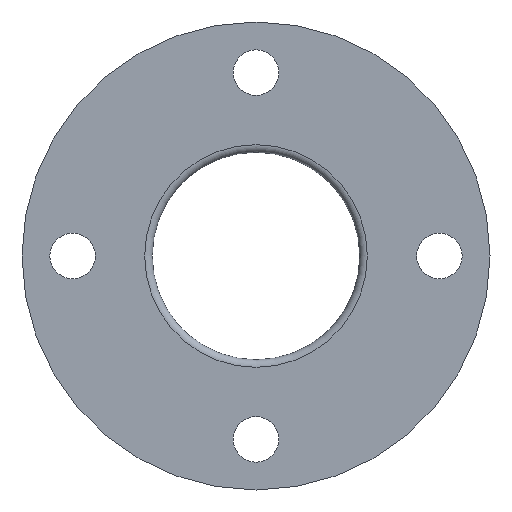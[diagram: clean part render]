
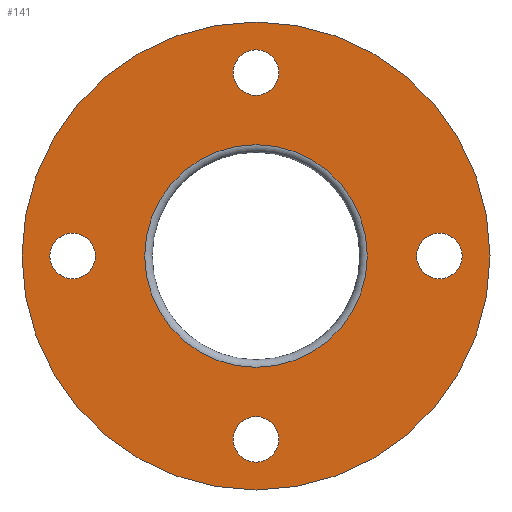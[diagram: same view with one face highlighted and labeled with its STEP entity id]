
A CAD part, front view. The second image highlights one B-rep face of the part: STEP entity #141.
In plain terms, the highlighted planar face has unit normal (0, -1, 0).
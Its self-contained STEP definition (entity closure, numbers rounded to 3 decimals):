
#13=PLANE($,#156);
#23=FACE_BOUND($,#52,.T.);
#24=FACE_BOUND($,#53,.T.);
#25=FACE_BOUND($,#54,.T.);
#26=FACE_BOUND($,#55,.T.);
#27=FACE_BOUND($,#56,.T.);
#41=FACE_OUTER_BOUND($,#51,.T.);
#51=EDGE_LOOP($,(#116));
#52=EDGE_LOOP($,(#117));
#53=EDGE_LOOP($,(#118));
#54=EDGE_LOOP($,(#119));
#55=EDGE_LOOP($,(#120));
#56=EDGE_LOOP($,(#121));
#74=CIRCLE($,#153,44.);
#76=CIRCLE($,#157,92.5);
#77=CIRCLE($,#158,9.);
#78=CIRCLE($,#159,9.);
#79=CIRCLE($,#160,9.);
#80=CIRCLE($,#161,9.);
#87=VERTEX_POINT($,#223);
#89=VERTEX_POINT($,#229);
#90=VERTEX_POINT($,#231);
#91=VERTEX_POINT($,#233);
#92=VERTEX_POINT($,#235);
#93=VERTEX_POINT($,#237);
#100=EDGE_CURVE($,#87,#87,#74,.T.);
#102=EDGE_CURVE($,#89,#89,#76,.T.);
#103=EDGE_CURVE($,#90,#90,#77,.T.);
#104=EDGE_CURVE($,#91,#91,#78,.T.);
#105=EDGE_CURVE($,#92,#92,#79,.T.);
#106=EDGE_CURVE($,#93,#93,#80,.T.);
#116=ORIENTED_EDGE($,*,*,#102,.F.);
#117=ORIENTED_EDGE($,*,*,#103,.T.);
#118=ORIENTED_EDGE($,*,*,#104,.T.);
#119=ORIENTED_EDGE($,*,*,#105,.T.);
#120=ORIENTED_EDGE($,*,*,#106,.T.);
#121=ORIENTED_EDGE($,*,*,#100,.F.);
#141=ADVANCED_FACE($,(#41,#23,#24,#25,#26,#27),#13,.T.);
#153=AXIS2_PLACEMENT_3D($,#224,#179,#180);
#156=AXIS2_PLACEMENT_3D($,#228,#185,#186);
#157=AXIS2_PLACEMENT_3D($,#230,#187,#188);
#158=AXIS2_PLACEMENT_3D($,#232,#189,#190);
#159=AXIS2_PLACEMENT_3D($,#234,#191,#192);
#160=AXIS2_PLACEMENT_3D($,#236,#193,#194);
#161=AXIS2_PLACEMENT_3D($,#238,#195,#196);
#179=DIRECTION('center_axis',(0.,-1.,0.));
#180=DIRECTION('ref_axis',(1.,0.,0.));
#185=DIRECTION('center_axis',(0.,-1.,0.));
#186=DIRECTION('ref_axis',(0.,0.,-1.));
#187=DIRECTION('center_axis',(0.,1.,0.));
#188=DIRECTION('ref_axis',(-1.,0.,0.));
#189=DIRECTION('center_axis',(0.,1.,0.));
#190=DIRECTION('ref_axis',(1.,0.,0.));
#191=DIRECTION('center_axis',(0.,1.,0.));
#192=DIRECTION('ref_axis',(0.,0.,-1.));
#193=DIRECTION('center_axis',(0.,1.,0.));
#194=DIRECTION('ref_axis',(-1.,0.,0.));
#195=DIRECTION('center_axis',(0.,1.,0.));
#196=DIRECTION('ref_axis',(0.,0.,1.));
#223=CARTESIAN_POINT('',(-44.,0.,0.));
#224=CARTESIAN_POINT('Origin',(0.,0.,0.));
#228=CARTESIAN_POINT('Origin',(-46.25,0.,0.));
#229=CARTESIAN_POINT('',(-92.5,0.,0.));
#230=CARTESIAN_POINT('Origin',(0.,0.,0.));
#231=CARTESIAN_POINT('',(63.5,0.,0.));
#232=CARTESIAN_POINT('Origin',(72.5,0.,0.));
#233=CARTESIAN_POINT('',(0.,0.,-63.5));
#234=CARTESIAN_POINT('Origin',(0.,0.,-72.5));
#235=CARTESIAN_POINT('',(-63.5,0.,0.));
#236=CARTESIAN_POINT('Origin',(-72.5,0.,0.));
#237=CARTESIAN_POINT('',(0.,0.,63.5));
#238=CARTESIAN_POINT('Origin',(0.,0.,72.5));
